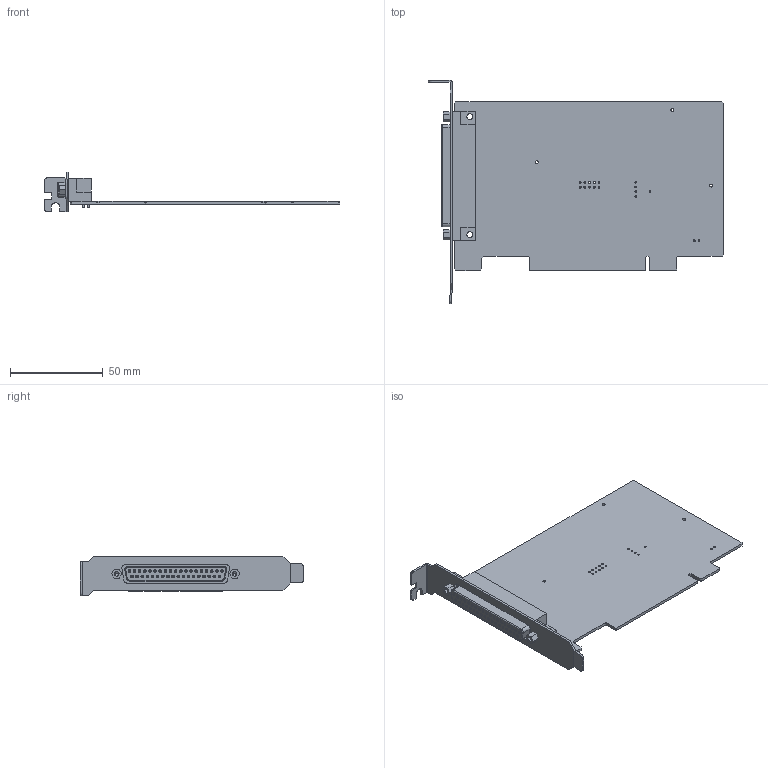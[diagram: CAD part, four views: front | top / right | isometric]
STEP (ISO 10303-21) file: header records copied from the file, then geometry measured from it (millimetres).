
FILE_DESCRIPTION (( 'STEP AP203' ), '1' );
FILE_NAME ('3Dͼֽ MPC1616 V1.0.STEP', '2022-10-24T09:24:27', ( 'Microsoft' ), ( 'Microsoft' ), 'SwSTEP 2.0', 'SolidWorks 2020', '' );
FILE_SCHEMA (( 'CONFIG_CONTROL_DESIGN' ));
Length unit declared in the file: millimetre
Products named in the file (4): DB37譫俔 2HXPDR-F; 3Dͼֽ MPC1616 V1.0; MPC1616結啣; MPC1616V1.0
Assembly tree (3 placements, depth 2):
  3Dͼֽ MPC1616 V1.0
    MPC1616V1.0
    DB37譫俔 2HXPDR-F
    MPC1616結啣
Bounding box: 158.8 x 120.08 x 21.5 mm (x, y, z)
Volume: 14217.3 mm3; surface area: 35944.9 mm2
Topology: 2 solids, 3 shells, 628 faces, 1459 edges, 912 vertices
Faces by surface type: cylinder 301, plane 170, torus 153, cone 4
Entity records: 18786 total; most frequent: DIRECTION 3630, CARTESIAN_POINT 3002, ORIENTED_EDGE 2910, AXIS2_PLACEMENT_3D 1540, EDGE_CURVE 1455, VERTEX_POINT 912, CIRCLE 905, EDGE_LOOP 835
